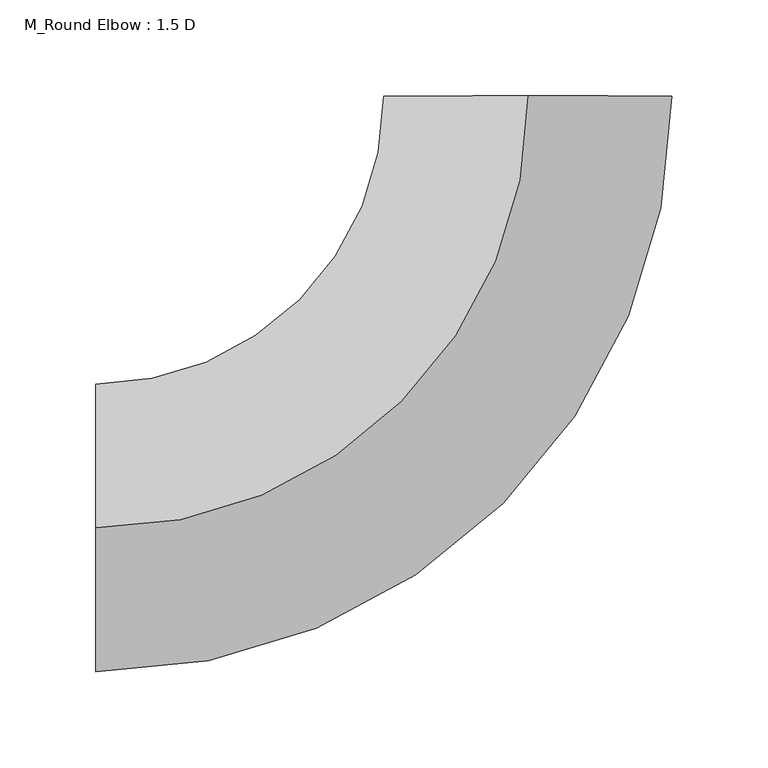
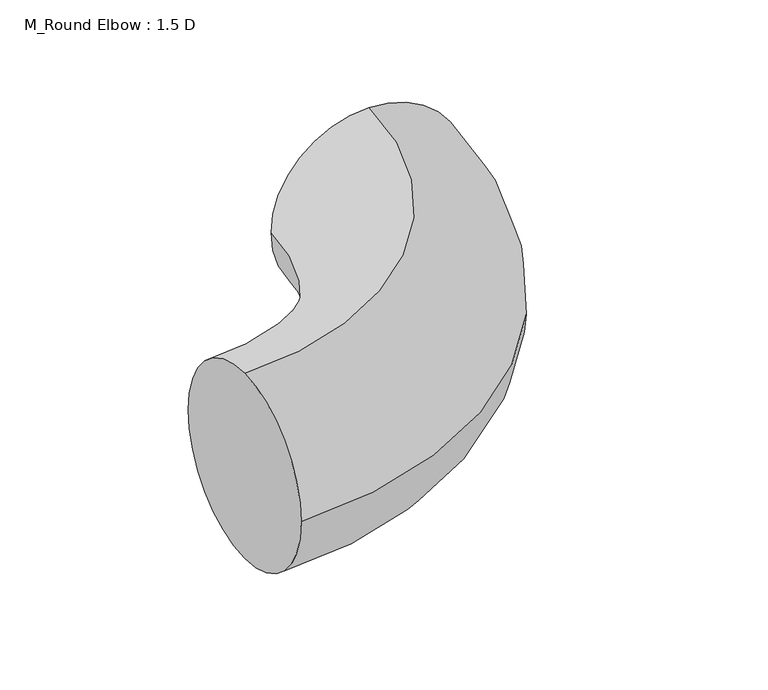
"""IFC4 building model written with IfcOpenShell, lengths in millimetres: duct fitting geometry, M_Round Elbow : 1.5 D."""

from ifc_helpers import new_model, si_unit, point, frame, origin, place, context, project, spatial, circle_curve, ellipse_curve, trimmed, source, transform, mapped, element, save
from ifc_brep_helpers import plane_surface, revolved_surface, advanced_brep


def m_round_elbow_1_5_d_4fd9c54a(model_context):
    return source(origin(), model_context, "Body", "AdvancedBrep", [
        advanced_brep(
        [(-225.0033426, 0.0, 75.0), (-225.0033426, 75.0, 0.0), (-225.0033426, 0.0, -75.0), (-225.0033426, -75.0, 0.0), (-0.0033426, 225.0033426, 75.0), (74.9966574, 225.0044568, 0.0), (-0.0033426, 225.0033426, -75.0), (-75.0033426, 225.0022284, 0.0)],
        [
            (0, 1, circle_curve(frame((-225.0033426, 0.0, 0.0), z_axis=(-1.0, 0.0, 0.0), x_axis=(0.0, 1.0, 0.0)), 75.0)),
            (1, 2, circle_curve(frame((-225.0033426, 0.0, 0.0), z_axis=(-1.0, 0.0, 0.0), x_axis=(0.0, 1.0, 0.0)), 75.0)),
            (2, 3, circle_curve(frame((-225.0033426, 0.0, 0.0), z_axis=(-1.0, 0.0, 0.0), x_axis=(0.0, 1.0, 0.0)), 75.0)),
            (3, 0, circle_curve(frame((-225.0033426, 0.0, 0.0), z_axis=(-1.0, 0.0, 0.0), x_axis=(0.0, 1.0, 0.0)), 75.0)),
            (4, 5, circle_curve(frame((-0.0033426, 225.0033426, 0.0), z_axis=(-1.4855961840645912e-05, 0.9999999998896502, 0.0), x_axis=(-0.9999999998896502, -1.4855961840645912e-05, 0.0)), 75.0)),
            (5, 6, circle_curve(frame((-0.0033426, 225.0033426, 0.0), z_axis=(-1.4855961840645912e-05, 0.9999999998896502, 0.0), x_axis=(-0.9999999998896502, -1.4855961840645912e-05, 0.0)), 75.0)),
            (6, 7, circle_curve(frame((-0.0033426, 225.0033426, 0.0), z_axis=(-1.4855961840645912e-05, 0.9999999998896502, 0.0), x_axis=(-0.9999999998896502, -1.4855961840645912e-05, 0.0)), 75.0)),
            (7, 4, circle_curve(frame((-0.0033426, 225.0033426, 0.0), z_axis=(-1.4855961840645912e-05, 0.9999999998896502, 0.0), x_axis=(-0.9999999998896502, -1.4855961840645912e-05, 0.0)), 75.0)),
            (7, 1, circle_curve(frame((-225.0033426, 225.0, 0.0), z_axis=(0.0, 0.0, -1.0), x_axis=(0.0, -1.0, 0.0)), 150.0)),
            (0, 4, circle_curve(frame((-225.0033426, 225.0, 75.0), z_axis=(0.0, 0.0, 1.0), x_axis=(0.0, -1.0, 0.0)), 225.0)),
            (6, 2, circle_curve(frame((-225.0033426, 225.0, -75.0), z_axis=(0.0, 0.0, -1.0), x_axis=(0.0, -1.0, 0.0)), 225.0)),
            (5, 3, circle_curve(frame((-225.0033426, 225.0, 0.0), z_axis=(0.0, 0.0, -1.0), x_axis=(0.0, -1.0, 0.0)), 300.0)),
        ],
        [
            plane_surface(frame((-225.0033426, 0.0, 0.0), z_axis=(-1.0, 0.0, 0.0), x_axis=(0.0, 0.0, 1.0))),
            plane_surface(frame((-0.0033426, 225.0033426, 0.0), z_axis=(-1.4855961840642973e-05, 0.9999999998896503, 0.0), x_axis=(0.0, 0.0, 1.0))),
            revolved_surface(trimmed(ellipse_curve(frame((-225.0033426, 0.0, 0.0), z_axis=(-1.0, 0.0, 0.0), x_axis=(0.0, 1.0, 0.0)), 75.0, 75.0), [point((-225.0033426, 0.0, 75.0))], [point((-225.0033426, 75.0, 0.0))], True, "CARTESIAN"), (-225.0033426, 225.0, 0.0), (0.0, 0.0, 1.0)),
            revolved_surface(trimmed(ellipse_curve(frame((-225.0033426, 0.0, 0.0), z_axis=(-1.0, 0.0, 0.0), x_axis=(0.0, 1.0, 0.0)), 75.0, 75.0), [point((-225.0033426, 75.0, 0.0))], [point((-225.0033426, 0.0, -75.0))], True, "CARTESIAN"), (-225.0033426, 225.0, 0.0), (0.0, 0.0, 1.0)),
            revolved_surface(trimmed(ellipse_curve(frame((-225.0033426, 0.0, 0.0), z_axis=(-1.0, 0.0, 0.0), x_axis=(0.0, 1.0, 0.0)), 75.0, 75.0), [point((-225.0033426, 0.0, -75.0))], [point((-225.0033426, -75.0, 0.0))], True, "CARTESIAN"), (-225.0033426, 225.0, 0.0), (0.0, 0.0, 1.0)),
            revolved_surface(trimmed(ellipse_curve(frame((-225.0033426, 0.0, 0.0), z_axis=(-1.0, 0.0, 0.0), x_axis=(0.0, 1.0, 0.0)), 75.0, 75.0), [point((-225.0033426, -75.0, 0.0))], [point((-225.0033426, 0.0, 75.0))], True, "CARTESIAN"), (-225.0033426, 225.0, 0.0), (0.0, 0.0, 1.0)),
        ],
        [
            (0, [[1, 2, 3, 4]]),
            (1, [[5, 6, 7, 8]]),
            (2, [[9, -1, 10, -8]]),
            (3, [[11, -2, -9, -7]]),
            (4, [[12, -3, -11, -6]]),
            (5, [[-10, -4, -12, -5]]),
        ],
    ),
        advanced_brep(
        [(-225.0033426, 0.0, 75.0), (-225.0033426, 75.0, 0.0), (-225.0033426, 0.0, -75.0), (-225.0033426, -75.0, 0.0), (-0.0033426, 225.0033426, 75.0), (74.9966574, 225.0044568, 0.0), (-0.0033426, 225.0033426, -75.0), (-75.0033426, 225.0022284, 0.0)],
        [
            (0, 1, circle_curve(frame((-225.0033426, 0.0, 0.0), z_axis=(-1.0, 0.0, 0.0), x_axis=(0.0, 1.0, 0.0)), 75.0)),
            (1, 2, circle_curve(frame((-225.0033426, 0.0, 0.0), z_axis=(-1.0, 0.0, 0.0), x_axis=(0.0, 1.0, 0.0)), 75.0)),
            (2, 3, circle_curve(frame((-225.0033426, 0.0, 0.0), z_axis=(-1.0, 0.0, 0.0), x_axis=(0.0, 1.0, 0.0)), 75.0)),
            (3, 0, circle_curve(frame((-225.0033426, 0.0, 0.0), z_axis=(-1.0, 0.0, 0.0), x_axis=(0.0, 1.0, 0.0)), 75.0)),
            (4, 5, circle_curve(frame((-0.0033426, 225.0033426, 0.0), z_axis=(-1.4855961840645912e-05, 0.9999999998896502, 0.0), x_axis=(-0.9999999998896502, -1.4855961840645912e-05, 0.0)), 75.0)),
            (5, 6, circle_curve(frame((-0.0033426, 225.0033426, 0.0), z_axis=(-1.4855961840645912e-05, 0.9999999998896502, 0.0), x_axis=(-0.9999999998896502, -1.4855961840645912e-05, 0.0)), 75.0)),
            (6, 7, circle_curve(frame((-0.0033426, 225.0033426, 0.0), z_axis=(-1.4855961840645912e-05, 0.9999999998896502, 0.0), x_axis=(-0.9999999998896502, -1.4855961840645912e-05, 0.0)), 75.0)),
            (7, 4, circle_curve(frame((-0.0033426, 225.0033426, 0.0), z_axis=(-1.4855961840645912e-05, 0.9999999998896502, 0.0), x_axis=(-0.9999999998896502, -1.4855961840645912e-05, 0.0)), 75.0)),
            (7, 1, circle_curve(frame((-225.0033426, 225.0, 0.0), z_axis=(0.0, 0.0, -1.0), x_axis=(0.0, -1.0, 0.0)), 150.0)),
            (0, 4, circle_curve(frame((-225.0033426, 225.0, 75.0), z_axis=(0.0, 0.0, 1.0), x_axis=(0.0, -1.0, 0.0)), 225.0)),
            (6, 2, circle_curve(frame((-225.0033426, 225.0, -75.0), z_axis=(0.0, 0.0, -1.0), x_axis=(0.0, -1.0, 0.0)), 225.0)),
            (5, 3, circle_curve(frame((-225.0033426, 225.0, 0.0), z_axis=(0.0, 0.0, -1.0), x_axis=(0.0, -1.0, 0.0)), 300.0)),
        ],
        [
            plane_surface(frame((-225.0033426, 0.0, 0.0), z_axis=(-1.0, 0.0, 0.0), x_axis=(0.0, 0.0, 1.0))),
            plane_surface(frame((-0.0033426, 225.0033426, 0.0), z_axis=(-1.4855961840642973e-05, 0.9999999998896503, 0.0), x_axis=(0.0, 0.0, 1.0))),
            revolved_surface(trimmed(ellipse_curve(frame((-225.0033426, 0.0, 0.0), z_axis=(-1.0, 0.0, 0.0), x_axis=(0.0, 1.0, 0.0)), 75.0, 75.0), [point((-225.0033426, 0.0, 75.0))], [point((-225.0033426, 75.0, 0.0))], True, "CARTESIAN"), (-225.0033426, 225.0, 0.0), (0.0, 0.0, 1.0)),
            revolved_surface(trimmed(ellipse_curve(frame((-225.0033426, 0.0, 0.0), z_axis=(-1.0, 0.0, 0.0), x_axis=(0.0, 1.0, 0.0)), 75.0, 75.0), [point((-225.0033426, 75.0, 0.0))], [point((-225.0033426, 0.0, -75.0))], True, "CARTESIAN"), (-225.0033426, 225.0, 0.0), (0.0, 0.0, 1.0)),
            revolved_surface(trimmed(ellipse_curve(frame((-225.0033426, 0.0, 0.0), z_axis=(-1.0, 0.0, 0.0), x_axis=(0.0, 1.0, 0.0)), 75.0, 75.0), [point((-225.0033426, 0.0, -75.0))], [point((-225.0033426, -75.0, 0.0))], True, "CARTESIAN"), (-225.0033426, 225.0, 0.0), (0.0, 0.0, 1.0)),
            revolved_surface(trimmed(ellipse_curve(frame((-225.0033426, 0.0, 0.0), z_axis=(-1.0, 0.0, 0.0), x_axis=(0.0, 1.0, 0.0)), 75.0, 75.0), [point((-225.0033426, -75.0, 0.0))], [point((-225.0033426, 0.0, 75.0))], True, "CARTESIAN"), (-225.0033426, 225.0, 0.0), (0.0, 0.0, 1.0)),
        ],
        [
            (0, [[1, 2, 3, 4]]),
            (1, [[5, 6, 7, 8]]),
            (2, [[9, -1, 10, -8]]),
            (3, [[11, -2, -9, -7]]),
            (4, [[12, -3, -11, -6]]),
            (5, [[-10, -4, -12, -5]]),
        ],
    ),
        advanced_brep(
        [(-225.0033426, 0.0, 75.0), (-225.0033426, 75.0, 0.0), (-225.0033426, 0.0, -75.0), (-225.0033426, -75.0, 0.0), (-0.0033426, 225.0033426, 75.0), (74.9966574, 225.0044568, 0.0), (-0.0033426, 225.0033426, -75.0), (-75.0033426, 225.0022284, 0.0)],
        [
            (0, 1, circle_curve(frame((-225.0033426, 0.0, 0.0), z_axis=(-1.0, 0.0, 0.0), x_axis=(0.0, 1.0, 0.0)), 75.0)),
            (1, 2, circle_curve(frame((-225.0033426, 0.0, 0.0), z_axis=(-1.0, 0.0, 0.0), x_axis=(0.0, 1.0, 0.0)), 75.0)),
            (2, 3, circle_curve(frame((-225.0033426, 0.0, 0.0), z_axis=(-1.0, 0.0, 0.0), x_axis=(0.0, 1.0, 0.0)), 75.0)),
            (3, 0, circle_curve(frame((-225.0033426, 0.0, 0.0), z_axis=(-1.0, 0.0, 0.0), x_axis=(0.0, 1.0, 0.0)), 75.0)),
            (4, 5, circle_curve(frame((-0.0033426, 225.0033426, 0.0), z_axis=(-1.4855961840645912e-05, 0.9999999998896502, 0.0), x_axis=(-0.9999999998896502, -1.4855961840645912e-05, 0.0)), 75.0)),
            (5, 6, circle_curve(frame((-0.0033426, 225.0033426, 0.0), z_axis=(-1.4855961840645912e-05, 0.9999999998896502, 0.0), x_axis=(-0.9999999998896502, -1.4855961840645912e-05, 0.0)), 75.0)),
            (6, 7, circle_curve(frame((-0.0033426, 225.0033426, 0.0), z_axis=(-1.4855961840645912e-05, 0.9999999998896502, 0.0), x_axis=(-0.9999999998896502, -1.4855961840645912e-05, 0.0)), 75.0)),
            (7, 4, circle_curve(frame((-0.0033426, 225.0033426, 0.0), z_axis=(-1.4855961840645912e-05, 0.9999999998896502, 0.0), x_axis=(-0.9999999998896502, -1.4855961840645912e-05, 0.0)), 75.0)),
            (7, 1, circle_curve(frame((-225.0033426, 225.0, 0.0), z_axis=(0.0, 0.0, -1.0), x_axis=(0.0, -1.0, 0.0)), 150.0)),
            (0, 4, circle_curve(frame((-225.0033426, 225.0, 75.0), z_axis=(0.0, 0.0, 1.0), x_axis=(0.0, -1.0, 0.0)), 225.0)),
            (6, 2, circle_curve(frame((-225.0033426, 225.0, -75.0), z_axis=(0.0, 0.0, -1.0), x_axis=(0.0, -1.0, 0.0)), 225.0)),
            (5, 3, circle_curve(frame((-225.0033426, 225.0, 0.0), z_axis=(0.0, 0.0, -1.0), x_axis=(0.0, -1.0, 0.0)), 300.0)),
        ],
        [
            plane_surface(frame((-225.0033426, 0.0, 0.0), z_axis=(-1.0, 0.0, 0.0), x_axis=(0.0, 0.0, 1.0))),
            plane_surface(frame((-0.0033426, 225.0033426, 0.0), z_axis=(-1.4855961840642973e-05, 0.9999999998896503, 0.0), x_axis=(0.0, 0.0, 1.0))),
            revolved_surface(trimmed(ellipse_curve(frame((-225.0033426, 0.0, 0.0), z_axis=(-1.0, 0.0, 0.0), x_axis=(0.0, 1.0, 0.0)), 75.0, 75.0), [point((-225.0033426, 0.0, 75.0))], [point((-225.0033426, 75.0, 0.0))], True, "CARTESIAN"), (-225.0033426, 225.0, 0.0), (0.0, 0.0, 1.0)),
            revolved_surface(trimmed(ellipse_curve(frame((-225.0033426, 0.0, 0.0), z_axis=(-1.0, 0.0, 0.0), x_axis=(0.0, 1.0, 0.0)), 75.0, 75.0), [point((-225.0033426, 75.0, 0.0))], [point((-225.0033426, 0.0, -75.0))], True, "CARTESIAN"), (-225.0033426, 225.0, 0.0), (0.0, 0.0, 1.0)),
            revolved_surface(trimmed(ellipse_curve(frame((-225.0033426, 0.0, 0.0), z_axis=(-1.0, 0.0, 0.0), x_axis=(0.0, 1.0, 0.0)), 75.0, 75.0), [point((-225.0033426, 0.0, -75.0))], [point((-225.0033426, -75.0, 0.0))], True, "CARTESIAN"), (-225.0033426, 225.0, 0.0), (0.0, 0.0, 1.0)),
            revolved_surface(trimmed(ellipse_curve(frame((-225.0033426, 0.0, 0.0), z_axis=(-1.0, 0.0, 0.0), x_axis=(0.0, 1.0, 0.0)), 75.0, 75.0), [point((-225.0033426, -75.0, 0.0))], [point((-225.0033426, 0.0, 75.0))], True, "CARTESIAN"), (-225.0033426, 225.0, 0.0), (0.0, 0.0, 1.0)),
        ],
        [
            (0, [[1, 2, 3, 4]]),
            (1, [[5, 6, 7, 8]]),
            (2, [[9, -1, 10, -8]]),
            (3, [[11, -2, -9, -7]]),
            (4, [[12, -3, -11, -6]]),
            (5, [[-10, -4, -12, -5]]),
        ],
    ),
    ])


if __name__ == "__main__":
    model = new_model("IFC4")
    model_context = context("Model", 3, world=origin())
    ifc_project = project(units=[si_unit("LENGTHUNIT", "METRE", prefix="MILLI")], contexts=[model_context])
    site = spatial("IfcSite", under=ifc_project)
    building = spatial("IfcBuilding", under=site)
    placement = place(None, origin())
    m_round_elbow_1_5_d_shape = m_round_elbow_1_5_d_4fd9c54a(model_context)
    element("IfcDuctFitting", 1, ObjectType="M_Round Elbow : 1.5 D", at=placement, inside=building, context=model_context, shape_type="MappedRepresentation", body=[
        mapped(m_round_elbow_1_5_d_shape, transform((0.0, 0.0, 0.0), x_axis=(1.0, 0.0, 0.0), y_axis=(0.0, 1.0, 0.0), z_axis=(0.0, 0.0, 1.0))),
    ])
    save(model, "model.ifc")
